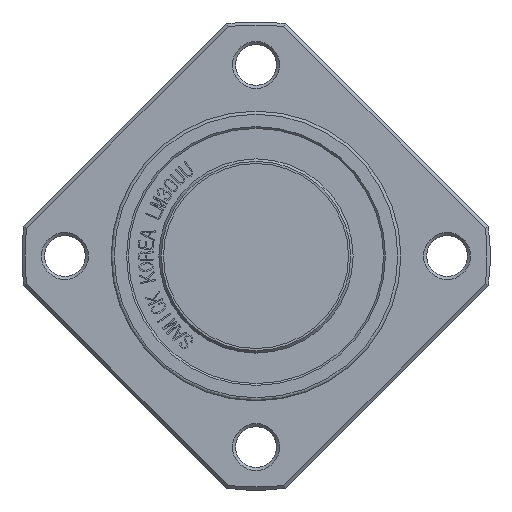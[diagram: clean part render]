
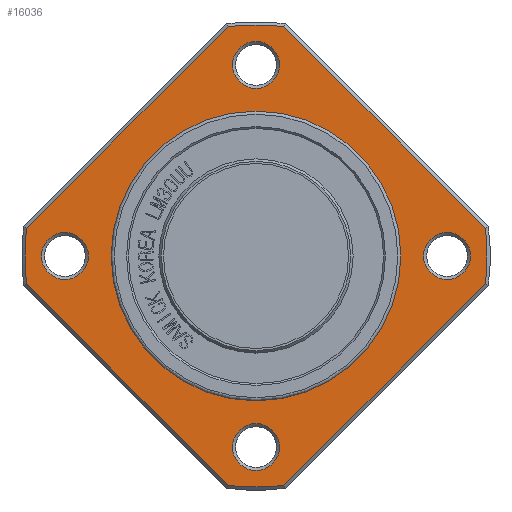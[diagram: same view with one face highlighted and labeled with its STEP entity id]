
A CAD part, front view. The second image highlights one B-rep face of the part: STEP entity #16036.
In plain terms, the highlighted planar face has unit normal (0, -1, 0).
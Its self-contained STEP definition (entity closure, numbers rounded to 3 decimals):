
#2311=FACE_BOUND('',#3510,.T.);
#2312=FACE_BOUND('',#3511,.T.);
#2313=FACE_BOUND('',#3512,.T.);
#2314=FACE_BOUND('',#3513,.T.);
#2315=FACE_BOUND('',#3514,.T.);
#2371=PLANE('',#16974);
#2614=FACE_OUTER_BOUND('',#3509,.T.);
#3509=EDGE_LOOP('',(#11076,#11077,#11078,#11079,#11080,#11081,#11082,#11083));
#3510=EDGE_LOOP('',(#11084));
#3511=EDGE_LOOP('',(#11085));
#3512=EDGE_LOOP('',(#11086,#11087));
#3513=EDGE_LOOP('',(#11088));
#3514=EDGE_LOOP('',(#11089));
#4461=LINE('',#19275,#5619);
#4462=LINE('',#19279,#5620);
#4463=LINE('',#19283,#5621);
#4464=LINE('',#19287,#5622);
#5619=VECTOR('',#17393,10.);
#5620=VECTOR('',#17396,10.);
#5621=VECTOR('',#17399,10.);
#5622=VECTOR('',#17402,10.);
#6790=CIRCLE('',#16972,3.8);
#6792=CIRCLE('',#16975,37.5);
#6793=CIRCLE('',#16976,37.5);
#6794=CIRCLE('',#16977,37.5);
#6795=CIRCLE('',#16978,37.5);
#6796=CIRCLE('',#16979,3.8);
#6797=CIRCLE('',#16980,3.8);
#6798=CIRCLE('',#16981,23.5);
#6799=CIRCLE('',#16982,23.5);
#6800=CIRCLE('',#16983,3.8);
#6884=VERTEX_POINT('',#19267);
#6886=VERTEX_POINT('',#19273);
#6887=VERTEX_POINT('',#19274);
#6888=VERTEX_POINT('',#19276);
#6889=VERTEX_POINT('',#19278);
#6890=VERTEX_POINT('',#19280);
#6891=VERTEX_POINT('',#19282);
#6892=VERTEX_POINT('',#19284);
#6893=VERTEX_POINT('',#19286);
#6894=VERTEX_POINT('',#19289);
#6895=VERTEX_POINT('',#19291);
#6896=VERTEX_POINT('',#19293);
#6897=VERTEX_POINT('',#19294);
#6898=VERTEX_POINT('',#19297);
#8556=EDGE_CURVE('',#6884,#6884,#6790,.T.);
#8559=EDGE_CURVE('',#6886,#6887,#4461,.T.);
#8560=EDGE_CURVE('',#6886,#6888,#6792,.T.);
#8561=EDGE_CURVE('',#6889,#6888,#4462,.T.);
#8562=EDGE_CURVE('',#6889,#6890,#6793,.T.);
#8563=EDGE_CURVE('',#6891,#6890,#4463,.T.);
#8564=EDGE_CURVE('',#6891,#6892,#6794,.T.);
#8565=EDGE_CURVE('',#6893,#6892,#4464,.T.);
#8566=EDGE_CURVE('',#6893,#6887,#6795,.T.);
#8567=EDGE_CURVE('',#6894,#6894,#6796,.T.);
#8568=EDGE_CURVE('',#6895,#6895,#6797,.T.);
#8569=EDGE_CURVE('',#6896,#6897,#6798,.T.);
#8570=EDGE_CURVE('',#6897,#6896,#6799,.T.);
#8571=EDGE_CURVE('',#6898,#6898,#6800,.T.);
#11076=ORIENTED_EDGE('',*,*,#8559,.F.);
#11077=ORIENTED_EDGE('',*,*,#8560,.T.);
#11078=ORIENTED_EDGE('',*,*,#8561,.F.);
#11079=ORIENTED_EDGE('',*,*,#8562,.T.);
#11080=ORIENTED_EDGE('',*,*,#8563,.F.);
#11081=ORIENTED_EDGE('',*,*,#8564,.T.);
#11082=ORIENTED_EDGE('',*,*,#8565,.F.);
#11083=ORIENTED_EDGE('',*,*,#8566,.T.);
#11084=ORIENTED_EDGE('',*,*,#8567,.F.);
#11085=ORIENTED_EDGE('',*,*,#8568,.F.);
#11086=ORIENTED_EDGE('',*,*,#8569,.F.);
#11087=ORIENTED_EDGE('',*,*,#8570,.F.);
#11088=ORIENTED_EDGE('',*,*,#8571,.F.);
#11089=ORIENTED_EDGE('',*,*,#8556,.F.);
#16036=ADVANCED_FACE('',(#2614,#2311,#2312,#2313,#2314,#2315),#2371,.T.);
#16972=AXIS2_PLACEMENT_3D('',#19268,#17386,#17387);
#16974=AXIS2_PLACEMENT_3D('',#19272,#17391,#17392);
#16975=AXIS2_PLACEMENT_3D('',#19277,#17394,#17395);
#16976=AXIS2_PLACEMENT_3D('',#19281,#17397,#17398);
#16977=AXIS2_PLACEMENT_3D('',#19285,#17400,#17401);
#16978=AXIS2_PLACEMENT_3D('',#19288,#17403,#17404);
#16979=AXIS2_PLACEMENT_3D('',#19290,#17405,#17406);
#16980=AXIS2_PLACEMENT_3D('',#19292,#17407,#17408);
#16981=AXIS2_PLACEMENT_3D('',#19295,#17409,#17410);
#16982=AXIS2_PLACEMENT_3D('',#19296,#17411,#17412);
#16983=AXIS2_PLACEMENT_3D('',#19298,#17413,#17414);
#17386=DIRECTION('center_axis',(0.,-1.,0.));
#17387=DIRECTION('ref_axis',(-1.,0.,0.));
#17391=DIRECTION('center_axis',(0.,-1.,0.));
#17392=DIRECTION('ref_axis',(0.,0.,-1.));
#17393=DIRECTION('',(-0.707,0.,0.707));
#17394=DIRECTION('center_axis',(0.,-1.,0.));
#17395=DIRECTION('ref_axis',(1.,0.,0.));
#17396=DIRECTION('',(-0.707,0.,-0.707));
#17397=DIRECTION('center_axis',(0.,-1.,0.));
#17398=DIRECTION('ref_axis',(1.,0.,0.));
#17399=DIRECTION('',(0.707,0.,-0.707));
#17400=DIRECTION('center_axis',(0.,-1.,0.));
#17401=DIRECTION('ref_axis',(1.,0.,0.));
#17402=DIRECTION('',(0.707,0.,0.707));
#17403=DIRECTION('center_axis',(0.,-1.,0.));
#17404=DIRECTION('ref_axis',(1.,0.,0.));
#17405=DIRECTION('center_axis',(0.,-1.,0.));
#17406=DIRECTION('ref_axis',(0.,0.,
1.));
#17407=DIRECTION('center_axis',(0.,-1.,0.));
#17408=DIRECTION('ref_axis',(1.,0.,0.));
#17409=DIRECTION('center_axis',(0.,-1.,0.));
#17410=DIRECTION('ref_axis',(1.,0.,0.));
#17411=DIRECTION('center_axis',(0.,-1.,0.));
#17412=DIRECTION('ref_axis',(1.,0.,0.));
#17413=DIRECTION('center_axis',(0.,-1.,0.));
#17414=DIRECTION('ref_axis',(0.,0.,-1.));
#19267=CARTESIAN_POINT('',(-27.2,41.5,0.));
#19268=CARTESIAN_POINT('Origin',(-31.,41.5,0.));
#19272=CARTESIAN_POINT('Origin',(23.5,41.5,0.));
#19273=CARTESIAN_POINT('',(-4.489,41.5,-37.23));
#19274=CARTESIAN_POINT('',(-37.23,41.5,-4.489));
#19275=CARTESIAN_POINT('',(-4.378,41.5,-37.341));
#19276=CARTESIAN_POINT('',(4.489,41.5,-37.23));
#19277=CARTESIAN_POINT('Origin',(0.,41.5,0.));
#19278=CARTESIAN_POINT('',(37.23,41.5,-4.489));
#19279=CARTESIAN_POINT('',(37.341,41.5,-4.378));
#19280=CARTESIAN_POINT('',(37.23,41.5,4.489));
#19281=CARTESIAN_POINT('Origin',(0.,41.5,0.));
#19282=CARTESIAN_POINT('',(4.489,41.5,37.23));
#19283=CARTESIAN_POINT('',(16.128,41.5,25.591));
#19284=CARTESIAN_POINT('',(-4.489,41.5,37.23));
#19285=CARTESIAN_POINT('Origin',(0.,41.5,0.));
#19286=CARTESIAN_POINT('',(-37.23,41.5,4.489));
#19287=CARTESIAN_POINT('',(-25.591,41.5,16.128));
#19288=CARTESIAN_POINT('Origin',(0.,41.5,0.));
#19289=CARTESIAN_POINT('',(0.,41.5,27.2));
#19290=CARTESIAN_POINT('Origin',(0.,41.5,31.));
#19291=CARTESIAN_POINT('',(27.2,41.5,0.));
#19292=CARTESIAN_POINT('Origin',(31.,41.5,0.));
#19293=CARTESIAN_POINT('',(23.5,41.5,0.));
#19294=CARTESIAN_POINT('',(-23.5,41.5,0.));
#19295=CARTESIAN_POINT('Origin',(0.,41.5,0.));
#19296=CARTESIAN_POINT('Origin',(0.,41.5,0.));
#19297=CARTESIAN_POINT('',(0.,41.5,-27.2));
#19298=CARTESIAN_POINT('Origin',(0.,41.5,-31.));
